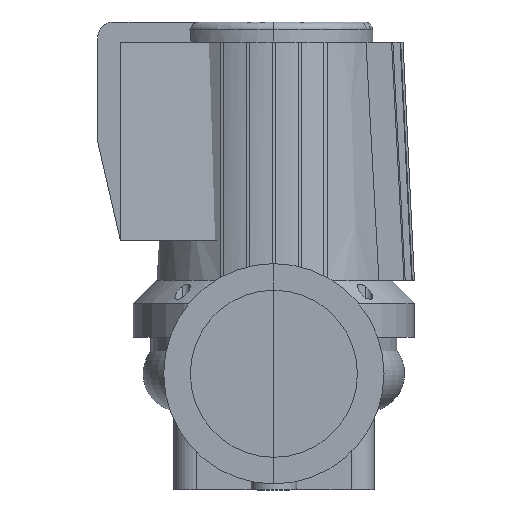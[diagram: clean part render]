
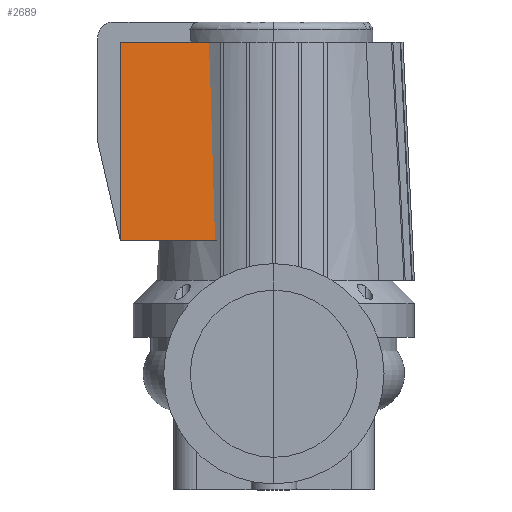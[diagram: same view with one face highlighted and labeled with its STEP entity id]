
A CAD part, left-side view. The second image highlights one B-rep face of the part: STEP entity #2689.
In plain terms, the highlighted planar face has unit normal (-0.997, 0, 0.076).
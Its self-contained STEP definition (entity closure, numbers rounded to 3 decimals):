
#251=PLANE('',#2930);
#400=FACE_OUTER_BOUND('',#576,.T.);
#576=EDGE_LOOP('',(#2289,#2290,#2291,#2292));
#721=LINE('',#5657,#905);
#729=LINE('',#5742,#913);
#738=LINE('',#5759,#922);
#739=LINE('',#5760,#923);
#905=VECTOR('',#3418,304.8);
#913=VECTOR('',#3434,304.8);
#922=VECTOR('',#3447,304.8);
#923=VECTOR('',#3448,304.8);
#1261=VERTEX_POINT('',#5655);
#1262=VERTEX_POINT('',#5656);
#1272=VERTEX_POINT('',#5740);
#1278=VERTEX_POINT('',#5758);
#1605=EDGE_CURVE('',#1261,#1262,#721,.T.);
#1618=EDGE_CURVE('',#1262,#1272,#729,.T.);
#1627=EDGE_CURVE('',#1278,#1272,#738,.T.);
#1628=EDGE_CURVE('',#1261,#1278,#739,.T.);
#2289=ORIENTED_EDGE('',*,*,#1627,.F.);
#2290=ORIENTED_EDGE('',*,*,#1628,.F.);
#2291=ORIENTED_EDGE('',*,*,#1605,.T.);
#2292=ORIENTED_EDGE('',*,*,#1618,.T.);
#2689=ADVANCED_FACE('',(#400),#251,.T.);
#2930=AXIS2_PLACEMENT_3D('',#5757,#3445,#3446);
#3418=DIRECTION('',(0.076,0.,0.997));
#3434=DIRECTION('',(0.,1.,0.));
#3445=DIRECTION('center_axis',(-0.997,0.,0.076));
#3446=DIRECTION('ref_axis',(0.,1.,0.));
#3447=DIRECTION('',(0.076,0.,0.997));
#3448=DIRECTION('',(0.,1.,0.));
#5655=CARTESIAN_POINT('',(27804.,-37446.239,87.521));
#5656=CARTESIAN_POINT('',(27814.,-37446.239,218.315));
#5657=CARTESIAN_POINT('',(27804.,-37446.239,87.521));
#5740=CARTESIAN_POINT('',(27814.,-37380.239,218.315));
#5742=CARTESIAN_POINT('',(27814.,-37446.239,218.315));
#5757=CARTESIAN_POINT('Origin',(27814.,-37481.239,218.315));
#5758=CARTESIAN_POINT('',(27804.,-37380.239,87.521));
#5759=CARTESIAN_POINT('',(27804.,-37380.239,87.521));
#5760=CARTESIAN_POINT('',(27804.,-37446.239,87.521));
